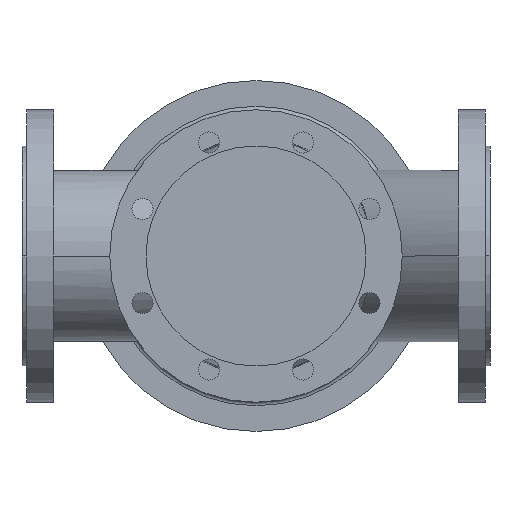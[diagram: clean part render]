
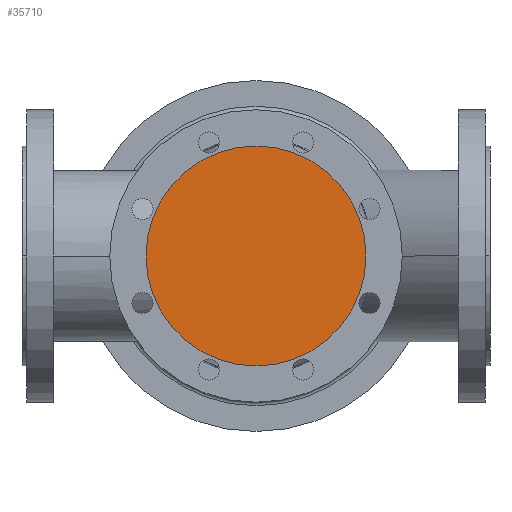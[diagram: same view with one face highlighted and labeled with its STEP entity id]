
A CAD part, front view. The second image highlights one B-rep face of the part: STEP entity #35710.
In plain terms, the highlighted planar face has unit normal (0, -1, 0).
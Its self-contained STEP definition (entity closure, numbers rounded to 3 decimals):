
#6990=CARTESIAN_POINT('',(294.,-200.,0.));
#7000=VERTEX_POINT('',#6990);
#7030=CARTESIAN_POINT('',(200.,-200.,0.));
#7040=DIRECTION('',(0.,1.,0.));
#7050=DIRECTION('',(1.,0.,0.));
#7060=AXIS2_PLACEMENT_3D('',#7030,#7040,#7050);
#7070=CIRCLE('',#7060,94.);
#7080=CARTESIAN_POINT('',(106.,-200.,0.));
#7090=VERTEX_POINT('',#7080);
#7100=EDGE_CURVE('',#7090,#7000,#7070,.T.);
#35610=CARTESIAN_POINT('',(247.,-200.,0.));
#35620=DIRECTION('',(0.,-1.,0.));
#35630=DIRECTION('',(-1.,0.,0.));
#35640=AXIS2_PLACEMENT_3D('',#35610,#35620,#35630);
#35650=PLANE('',#35640);
#35660=EDGE_CURVE('',#7000,#7090,#7070,.T.);
#35670=ORIENTED_EDGE('',*,*,#35660,.F.);
#35680=ORIENTED_EDGE('',*,*,#7100,.F.);
#35690=EDGE_LOOP('',(#35680,#35670));
#35700=FACE_OUTER_BOUND('',#35690,.T.);
#35710=ADVANCED_FACE('',(#35700),#35650,.T.);
